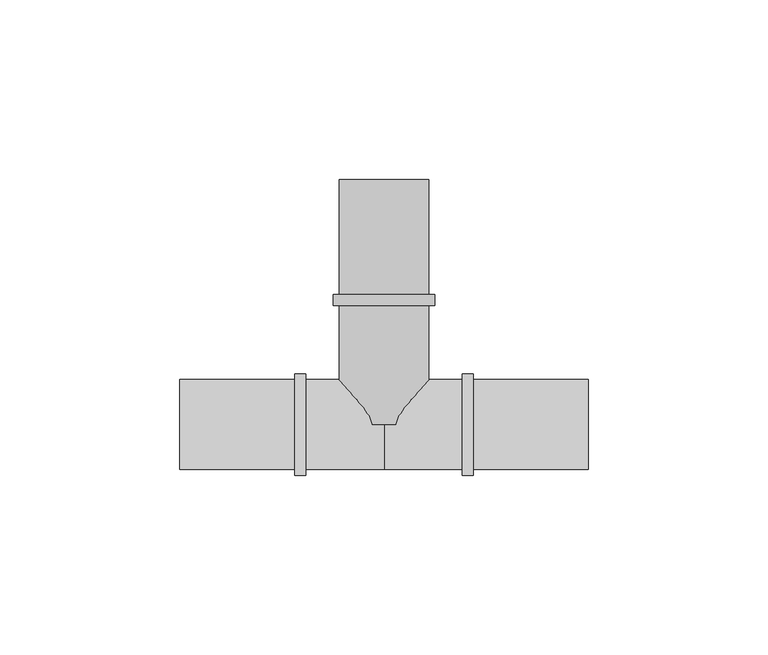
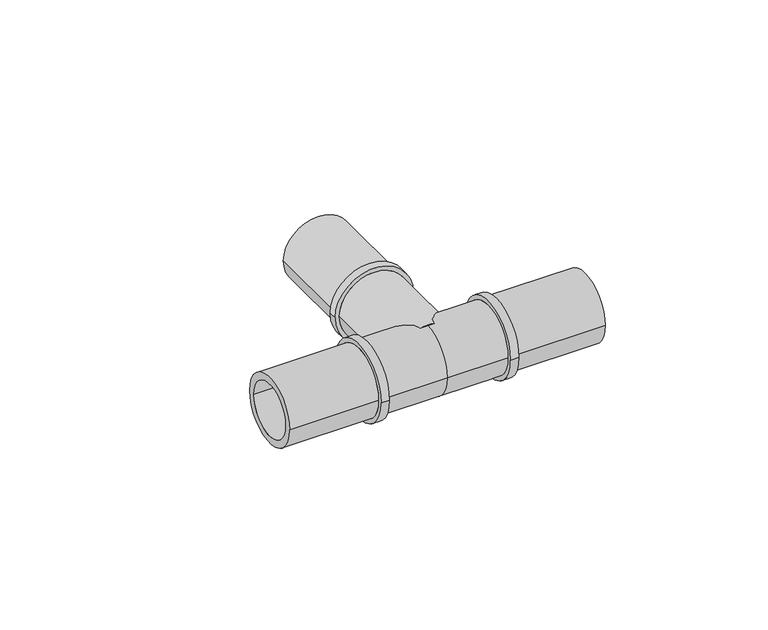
"""IFC4 building model written with IfcOpenShell, lengths in millimetres: pipe fitting geometry, FASTLOC_T-piece_LX : FSL T-Piece LX PL."""

from ifc_helpers import new_model, si_unit, frame, origin, place, context, project, spatial, polyline, circle_curve, source, transform, mapped, element, save
from ifc_brep_helpers import plane_surface, cylinder_surface, revolved_surface, advanced_brep


def pipe_fitting_59d0f585(model_context):
    return source(origin(), model_context, "Body", "AdvancedBrep", [
        advanced_brep(
        [(9.85, 68.1, 0.0), (-9.85, 68.1, 0.0), (-9.85, 0.0, 0.0), (9.85, 0.0, 0.0), (12.5, 0.0, 0.0), (-12.5, 0.0, 0.0), (-12.5, 33.1, 0.0), (12.5, 33.1, 0.0), (14.1, 33.1, 0.0), (-14.1, 33.1, 0.0), (-14.1, 36.1, 0.0), (14.1, 36.1, 0.0), (12.5, 36.1, 0.0), (-12.5, 36.1, 0.0), (-12.5, 68.1, 0.0), (12.5, 68.1, 0.0)],
        [
            (0, 1, circle_curve(frame((0.0, 68.1, 0.0), z_axis=(0.0, 1.0, 0.0), x_axis=(-1.0, 0.0, 0.0)), 9.85)),
            (1, 2),
            (2, 3, circle_curve(frame((0.0, 0.0, 0.0), z_axis=(0.0, -1.0, 0.0), x_axis=(-1.0, 0.0, 0.0)), 9.85)),
            (3, 0),
            (4, 5, circle_curve(frame((0.0, 0.0, 0.0), z_axis=(0.0, 1.0, 0.0), x_axis=(-1.0, 0.0, 0.0)), 12.5)),
            (5, 6),
            (6, 7, circle_curve(frame((0.0, 33.1, 0.0), z_axis=(0.0, -1.0, 0.0), x_axis=(-1.0, 0.0, 0.0)), 12.5)),
            (7, 4),
            (8, 9, circle_curve(frame((0.0, 33.1, 0.0), z_axis=(0.0, 1.0, 0.0), x_axis=(-1.0, 0.0, 0.0)), 14.1)),
            (9, 10),
            (10, 11, circle_curve(frame((0.0, 36.1, 0.0), z_axis=(0.0, -1.0, 0.0), x_axis=(-1.0, 0.0, 0.0)), 14.1)),
            (11, 8),
            (12, 13, circle_curve(frame((0.0, 36.1, 0.0), z_axis=(0.0, 1.0, 0.0), x_axis=(-1.0, 0.0, 0.0)), 12.5)),
            (13, 14),
            (14, 15, circle_curve(frame((0.0, 68.1, 0.0), z_axis=(0.0, -1.0, 0.0), x_axis=(-1.0, 0.0, 0.0)), 12.5)),
            (15, 12),
            (1, 0, circle_curve(frame((0.0, 68.1, 0.0), z_axis=(0.0, 1.0, 0.0), x_axis=(1.0, 0.0, 0.0)), 9.85)),
            (3, 2, circle_curve(frame((0.0, 0.0, 0.0), z_axis=(0.0, -1.0, 0.0), x_axis=(1.0, 0.0, 0.0)), 9.85)),
            (4, 5, circle_curve(frame((0.0, 0.0, 0.0), z_axis=(0.0, -1.0, 0.0), x_axis=(1.0, 0.0, 0.0)), 12.5)),
            (7, 6, circle_curve(frame((0.0, 33.1, 0.0), z_axis=(0.0, -1.0, 0.0), x_axis=(1.0, 0.0, 0.0)), 12.5)),
            (8, 9, circle_curve(frame((0.0, 33.1, 0.0), z_axis=(0.0, -1.0, 0.0), x_axis=(1.0, 0.0, 0.0)), 14.1)),
            (11, 10, circle_curve(frame((0.0, 36.1, 0.0), z_axis=(0.0, -1.0, 0.0), x_axis=(1.0, 0.0, 0.0)), 14.1)),
            (12, 13, circle_curve(frame((0.0, 36.1, 0.0), z_axis=(0.0, -1.0, 0.0), x_axis=(1.0, 0.0, 0.0)), 12.5)),
            (15, 14, circle_curve(frame((0.0, 68.1, 0.0), z_axis=(0.0, -1.0, 0.0), x_axis=(1.0, 0.0, 0.0)), 12.5)),
        ],
        [
            revolved_surface(polyline([(-9.85, 0.0, 0.0), (-9.85, 68.1, 0.0)]), (0.0, 0.0, 0.0), (0.0, -1.0, 0.0)),
            cylinder_surface(frame((0.0, 0.0, 0.0), z_axis=(0.0, -1.0, 0.0), x_axis=(-1.0, 0.0, 0.0)), 12.5),
            cylinder_surface(frame((0.0, 0.0, 0.0), z_axis=(0.0, -1.0, 0.0), x_axis=(-1.0, 0.0, 0.0)), 14.1),
            revolved_surface(polyline([(9.85, 0.0, 0.0), (9.85, 68.1, 0.0)]), (0.0, 0.0, 0.0), (0.0, -1.0, 0.0)),
            plane_surface(frame((0.0, 0.0, 0.0), z_axis=(0.0, -1.0, 0.0), x_axis=(1.0, 0.0, 0.0))),
            cylinder_surface(frame((0.0, 0.0, 0.0), z_axis=(0.0, -1.0, 0.0), x_axis=(1.0, 0.0, 0.0)), 12.5),
            plane_surface(frame((0.0, 33.1, 0.0), z_axis=(0.0, -1.0, 0.0), x_axis=(1.0, 0.0, 0.0))),
            cylinder_surface(frame((0.0, 0.0, 0.0), z_axis=(0.0, -1.0, 0.0), x_axis=(1.0, 0.0, 0.0)), 14.1),
            plane_surface(frame((0.0, 36.1, 0.0), z_axis=(0.0, 1.0, 0.0), x_axis=(1.0, 0.0, 0.0))),
            plane_surface(frame((0.0, 68.1, 0.0), z_axis=(0.0, 1.0, 0.0), x_axis=(1.0, 0.0, 0.0))),
        ],
        [
            (0, [[1, 2, 3, 4]]),
            (1, [[5, 6, 7, 8]]),
            (2, [[9, 10, 11, 12]]),
            (1, [[13, 14, 15, 16]]),
            (3, [[17, -4, 18, -2]]),
            (4, [[19, -5], [-18, -3]]),
            (5, [[-19, -8, 20, -6]]),
            (6, [[21, -9], [-20, -7]]),
            (7, [[-21, -12, 22, -10]]),
            (8, [[-22, -11], [23, -13]]),
            (5, [[-23, -16, 24, -14]]),
            (9, [[-24, -15], [-17, -1]]),
        ],
    ),
        advanced_brep(
        [(0.0, 12.5, 0.0), (0.0, -12.5, 0.0), (-21.8, -12.5, 0.0), (-21.8, 12.5, 0.0), (21.8, 12.5, 0.0), (21.8, -12.5, 0.0), (24.8, 14.1, 0.0), (24.8, -14.1, 0.0), (21.8, -14.1, 0.0), (21.8, 14.1, 0.0), (56.75, 12.5, 0.0), (56.75, -12.5, 0.0), (24.8, -12.5, 0.0), (24.8, 12.5, 0.0), (-24.8, 12.5, 0.0), (-24.8, -12.5, 0.0), (-56.75, -12.5, 0.0), (-56.75, 12.5, 0.0), (-21.8, 14.1, 0.0), (-21.8, -14.1, 0.0), (-24.8, -14.1, 0.0), (-24.8, 14.1, 0.0), (56.75, -9.85, 0.0), (56.75, 9.85, 0.0), (-56.75, 9.85, 0.0), (-56.75, -9.85, 0.0), (0.0, 9.85, 0.0), (0.0, -9.85, 0.0)],
        [
            (0, 1, circle_curve(frame((0.0, 0.0, 0.0), z_axis=(-1.0, 0.0, 0.0), x_axis=(0.0, -1.0, 0.0)), 12.5)),
            (1, 2),
            (2, 3, circle_curve(frame((-21.8, 0.0, 0.0), z_axis=(1.0, 0.0, 0.0), x_axis=(0.0, -1.0, 0.0)), 12.5)),
            (3, 0),
            (4, 5, circle_curve(frame((21.8, 0.0, 0.0), z_axis=(-1.0, 0.0, 0.0), x_axis=(0.0, -1.0, 0.0)), 12.5)),
            (5, 1),
            (0, 4),
            (6, 7, circle_curve(frame((24.8, 0.0, 0.0), z_axis=(-1.0, 0.0, 0.0), x_axis=(0.0, -1.0, 0.0)), 14.1)),
            (7, 8),
            (8, 9, circle_curve(frame((21.8, 0.0, 0.0), z_axis=(1.0, 0.0, 0.0), x_axis=(0.0, -1.0, 0.0)), 14.1)),
            (9, 6),
            (10, 11, circle_curve(frame((56.75, 0.0, 0.0), z_axis=(-1.0, 0.0, 0.0), x_axis=(0.0, -1.0, 0.0)), 12.5)),
            (11, 12),
            (12, 13, circle_curve(frame((24.8, 0.0, 0.0), z_axis=(1.0, 0.0, 0.0), x_axis=(0.0, -1.0, 0.0)), 12.5)),
            (13, 10),
            (14, 15, circle_curve(frame((-24.8, 0.0, 0.0), z_axis=(-1.0, 0.0, 0.0), x_axis=(0.0, -1.0, 0.0)), 12.5)),
            (15, 16),
            (16, 17, circle_curve(frame((-56.75, 0.0, 0.0), z_axis=(1.0, 0.0, 0.0), x_axis=(0.0, -1.0, 0.0)), 12.5)),
            (17, 14),
            (18, 19, circle_curve(frame((-21.8, 0.0, 0.0), z_axis=(-1.0, 0.0, 0.0), x_axis=(0.0, -1.0, 0.0)), 14.1)),
            (19, 20),
            (20, 21, circle_curve(frame((-24.8, 0.0, 0.0), z_axis=(1.0, 0.0, 0.0), x_axis=(0.0, -1.0, 0.0)), 14.1)),
            (21, 18),
            (18, 19, circle_curve(frame((-21.8, 0.0, 0.0), z_axis=(1.0, 0.0, 0.0), x_axis=(0.0, 1.0, 0.0)), 14.1)),
            (2, 3, circle_curve(frame((-21.8, 0.0, 0.0), z_axis=(-1.0, 0.0, 0.0), x_axis=(0.0, 1.0, 0.0)), 12.5)),
            (1, 0, circle_curve(frame((0.0, 0.0, 0.0), z_axis=(-1.0, 0.0, 0.0), x_axis=(0.0, 1.0, 0.0)), 12.5)),
            (5, 4, circle_curve(frame((21.8, 0.0, 0.0), z_axis=(-1.0, 0.0, 0.0), x_axis=(0.0, 1.0, 0.0)), 12.5)),
            (8, 9, circle_curve(frame((21.8, 0.0, 0.0), z_axis=(-1.0, 0.0, 0.0), x_axis=(0.0, 1.0, 0.0)), 14.1)),
            (7, 6, circle_curve(frame((24.8, 0.0, 0.0), z_axis=(-1.0, 0.0, 0.0), x_axis=(0.0, 1.0, 0.0)), 14.1)),
            (12, 13, circle_curve(frame((24.8, 0.0, 0.0), z_axis=(-1.0, 0.0, 0.0), x_axis=(0.0, 1.0, 0.0)), 12.5)),
            (11, 10, circle_curve(frame((56.75, 0.0, 0.0), z_axis=(-1.0, 0.0, 0.0), x_axis=(0.0, 1.0, 0.0)), 12.5)),
            (22, 23, circle_curve(frame((56.75, 0.0, 0.0), z_axis=(-1.0, 0.0, 0.0), x_axis=(0.0, 1.0, 0.0)), 9.85)),
            (23, 22, circle_curve(frame((56.75, 0.0, 0.0), z_axis=(-1.0, 0.0, 0.0), x_axis=(0.0, -1.0, 0.0)), 9.85)),
            (16, 17, circle_curve(frame((-56.75, 0.0, 0.0), z_axis=(-1.0, 0.0, 0.0), x_axis=(0.0, 1.0, 0.0)), 12.5)),
            (24, 25, circle_curve(frame((-56.75, 0.0, 0.0), z_axis=(1.0, 0.0, 0.0), x_axis=(0.0, 1.0, 0.0)), 9.85)),
            (25, 24, circle_curve(frame((-56.75, 0.0, 0.0), z_axis=(1.0, 0.0, 0.0), x_axis=(0.0, -1.0, 0.0)), 9.85)),
            (15, 14, circle_curve(frame((-24.8, 0.0, 0.0), z_axis=(-1.0, 0.0, 0.0), x_axis=(0.0, 1.0, 0.0)), 12.5)),
            (20, 21, circle_curve(frame((-24.8, 0.0, 0.0), z_axis=(-1.0, 0.0, 0.0), x_axis=(0.0, 1.0, 0.0)), 14.1)),
            (26, 27, circle_curve(frame((0.0, 0.0, 0.0), z_axis=(-1.0, 0.0, 0.0), x_axis=(0.0, -1.0, 0.0)), 9.85)),
            (27, 22),
            (23, 26),
            (25, 27),
            (26, 24),
            (27, 26, circle_curve(frame((0.0, 0.0, 0.0), z_axis=(-1.0, 0.0, 0.0), x_axis=(0.0, 1.0, 0.0)), 9.85)),
        ],
        [
            cylinder_surface(frame((0.0, 0.0, 0.0), z_axis=(1.0, 0.0, 0.0), x_axis=(0.0, -1.0, 0.0)), 12.5),
            cylinder_surface(frame((0.0, 0.0, 0.0), z_axis=(1.0, 0.0, 0.0), x_axis=(0.0, -1.0, 0.0)), 14.1),
            plane_surface(frame((-21.8, 0.0, 0.0), z_axis=(1.0, 0.0, 0.0), x_axis=(0.0, 1.0, 0.0))),
            cylinder_surface(frame((0.0, 0.0, 0.0), z_axis=(1.0, 0.0, 0.0), x_axis=(0.0, 1.0, 0.0)), 12.5),
            plane_surface(frame((21.8, 0.0, 0.0), z_axis=(-1.0, 0.0, 0.0), x_axis=(0.0, 1.0, 0.0))),
            cylinder_surface(frame((0.0, 0.0, 0.0), z_axis=(1.0, 0.0, 0.0), x_axis=(0.0, 1.0, 0.0)), 14.1),
            plane_surface(frame((24.8, 0.0, 0.0), z_axis=(1.0, 0.0, 0.0), x_axis=(0.0, 1.0, 0.0))),
            plane_surface(frame((56.75, 0.0, 0.0), z_axis=(1.0, 0.0, 0.0), x_axis=(0.0, 1.0, 0.0))),
            plane_surface(frame((-56.75, 0.0, 0.0), z_axis=(-1.0, 0.0, 0.0), x_axis=(0.0, 1.0, 0.0))),
            plane_surface(frame((-24.8, 0.0, 0.0), z_axis=(-1.0, 0.0, 0.0), x_axis=(0.0, 1.0, 0.0))),
            revolved_surface(polyline([(56.75, -9.85, 0.0), (0.0, -9.85, 0.0)]), (0.0, 0.0, 0.0), (1.0, 0.0, 0.0)),
            revolved_surface(polyline([(0.0, -9.85, 0.0), (-56.75, -9.85, 0.0)]), (0.0, 0.0, 0.0), (1.0, 0.0, 0.0)),
            revolved_surface(polyline([(56.75, 9.85, 0.0), (0.0, 9.85, 0.0)]), (0.0, 0.0, 0.0), (1.0, 0.0, 0.0)),
            revolved_surface(polyline([(0.0, 9.85, 0.0), (-56.75, 9.85, 0.0)]), (0.0, 0.0, 0.0), (1.0, 0.0, 0.0)),
        ],
        [
            (0, [[1, 2, 3, 4]]),
            (0, [[5, 6, -1, 7]]),
            (1, [[8, 9, 10, 11]]),
            (0, [[12, 13, 14, 15]]),
            (0, [[16, 17, 18, 19]]),
            (1, [[20, 21, 22, 23]]),
            (2, [[24, -20], [25, -3]]),
            (3, [[26, -4, -25, -2]]),
            (3, [[27, -7, -26, -6]]),
            (4, [[28, -10], [-27, -5]]),
            (5, [[29, -11, -28, -9]]),
            (6, [[-29, -8], [30, -14]]),
            (3, [[31, -15, -30, -13]]),
            (7, [[-31, -12], [32, 33]]),
            (8, [[34, -18], [35, 36]]),
            (3, [[37, -19, -34, -17]]),
            (9, [[38, -22], [-37, -16]]),
            (5, [[-24, -23, -38, -21]]),
            (10, [[39, 40, -33, 41]]),
            (11, [[-36, 42, -39, 43]]),
            (12, [[44, -41, -32, -40]]),
            (13, [[-35, -43, -44, -42]]),
        ],
    ),
    ])


if __name__ == "__main__":
    model = new_model("IFC4")
    model_context = context("Model", 3, world=origin())
    ifc_project = project(units=[si_unit("LENGTHUNIT", "METRE", prefix="MILLI")], contexts=[model_context])
    site = spatial("IfcSite", under=ifc_project)
    building = spatial("IfcBuilding", under=site)
    placement = place(None, origin())
    pipe_fitting_shape = pipe_fitting_59d0f585(model_context)
    element("IfcPipeFitting", 1, ObjectType="FASTLOC_T-piece_LX : FSL T-Piece LX PL", at=placement, inside=building, context=model_context, shape_type="MappedRepresentation", body=[
        mapped(pipe_fitting_shape, transform((0.0, 0.0, 0.0), x_axis=(1.0, 0.0, 0.0), y_axis=(0.0, 1.0, 0.0), z_axis=(0.0, 0.0, 1.0))),
    ])
    save(model, "model.ifc")
